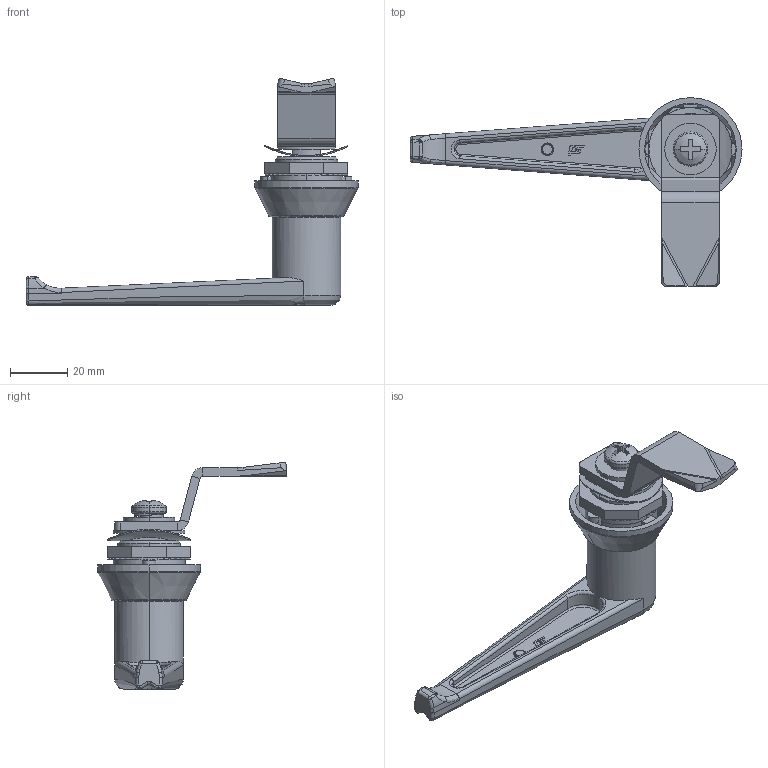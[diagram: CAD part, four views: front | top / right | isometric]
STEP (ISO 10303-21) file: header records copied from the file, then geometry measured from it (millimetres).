
FILE_DESCRIPTION((''),'2;1');
FILE_NAME('3SJ_MS301-2_0001_ASM','2016-07-13T',('Administrator'),(''),'PRO/ENGINEER BY PARAMETRIC TECHNOLOGY CORPORATION, 2009060','PRO/ENGINEER BY PARAMETRIC TECHNOLOGY CORPORATION, 2009060','');
FILE_SCHEMA(('CONFIG_CONTROL_DESIGN'));
Length unit declared in the file: millimetre
Products named in the file (11): 8SJ_MS304_0010; 8SJ_MS301-1_0020; 8SJ_MS304_0760; 8SJ_MS304_0850; 8SJ_MS304_0540; 8SJ-S1H-0003; D6_GB-T96_1-2002; D6_GB-T859-1987; M6X10_GB-T818-2000; 8SJ_MS301-2_0210; 3SJ_MS301-2_0001_ASM
Assembly tree (10 placements, depth 2):
  3SJ_MS301-2_0001_ASM
    8SJ_MS304_0010
    8SJ_MS301-1_0020
    8SJ_MS304_0760
    8SJ_MS304_0850
    8SJ_MS304_0540
    8SJ-S1H-0003
    D6_GB-T96_1-2002
    D6_GB-T859-1987
    M6X10_GB-T818-2000
    8SJ_MS301-2_0210
Bounding box: 116 x 66 x 79.25 mm (x, y, z)
Volume: 43513.9 mm3; surface area: 23529.3 mm2
Topology: 10 solids, 10 shells, 516 faces, 1259 edges, 808 vertices
Faces by surface type: plane 253, cylinder 168, bspline 56, torus 18, cone 14, sphere 7
Entity records: 19636 total; most frequent: CARTESIAN_POINT 7331, ORIENTED_EDGE 2518, DIRECTION 2512, EDGE_CURVE 1259, AXIS2_PLACEMENT_3D 911, VERTEX_POINT 808, VECTOR 690, LINE 690
